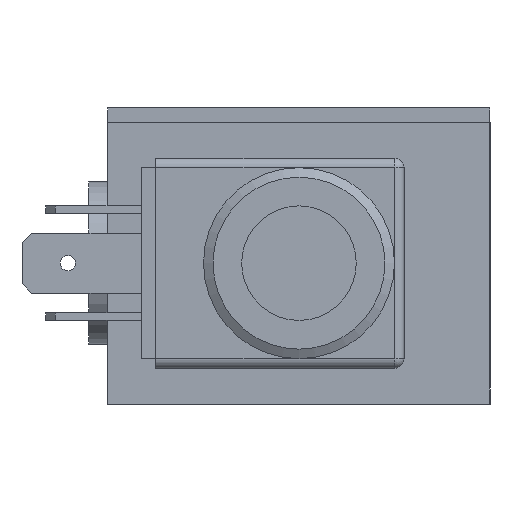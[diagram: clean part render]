
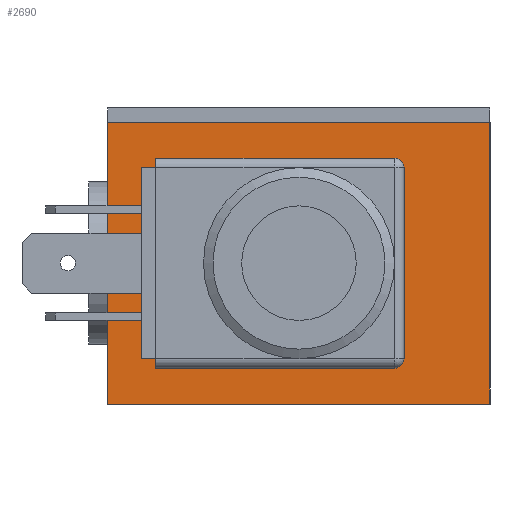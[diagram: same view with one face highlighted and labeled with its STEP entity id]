
A CAD part, left-side view. The second image highlights one B-rep face of the part: STEP entity #2690.
In plain terms, the highlighted planar face has unit normal (-1, 0, 0).
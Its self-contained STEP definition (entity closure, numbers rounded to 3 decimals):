
#1795=CARTESIAN_POINT('',(-55.0,11.,-8.75));
#1796=VERTEX_POINT('',#1795);
#1803=CARTESIAN_POINT('',(-55.0,11.0,-23.75));
#1804=VERTEX_POINT('',#1803);
#1805=CARTESIAN_POINT('',(-55.0,11.0,-23.75));
#1806=DIRECTION('',(0.0,0.0,1.0));
#1807=VECTOR('',#1806,15.);
#1808=LINE('',#1805,#1807);
#1809=EDGE_CURVE('',#1804,#1796,#1808,.T.);
#1837=CARTESIAN_POINT('',(-55.0,7.5,-5.25));
#1838=VERTEX_POINT('',#1837);
#1845=CARTESIAN_POINT('',(-55.0,7.5,-8.75));
#1846=DIRECTION('',(1.0,0.0,0.0));
#1847=DIRECTION('',(0.0,0.0,1.0));
#1848=AXIS2_PLACEMENT_3D('',#1845,#1846,#1847);
#1849=CIRCLE('',#1848,3.5);
#1850=EDGE_CURVE('',#1796,#1838,#1849,.T.);
#1869=CARTESIAN_POINT('',(-55.0,-7.5,-5.25));
#1870=VERTEX_POINT('',#1869);
#1877=CARTESIAN_POINT('',(-55.0,7.5,-5.25));
#1878=DIRECTION('',(0.0,-1.0,0.0));
#1879=VECTOR('',#1878,15.);
#1880=LINE('',#1877,#1879);
#1881=EDGE_CURVE('',#1838,#1870,#1880,.T.);
#1901=CARTESIAN_POINT('',(-55.0,-11.,-8.75));
#1902=VERTEX_POINT('',#1901);
#1909=CARTESIAN_POINT('',(-55.0,-7.5,-8.75));
#1910=DIRECTION('',(1.0,0.0,0.0));
#1911=DIRECTION('',(0.0,-1.0,0.0));
#1912=AXIS2_PLACEMENT_3D('',#1909,#1910,#1911);
#1913=CIRCLE('',#1912,3.5);
#1914=EDGE_CURVE('',#1870,#1902,#1913,.T.);
#1933=CARTESIAN_POINT('',(-55.0,-11.0,-23.75));
#1934=VERTEX_POINT('',#1933);
#1941=CARTESIAN_POINT('',(-55.0,-11.,-8.75));
#1942=DIRECTION('',(0.0,0.0,-1.0));
#1943=VECTOR('',#1942,15.);
#1944=LINE('',#1941,#1943);
#1945=EDGE_CURVE('',#1902,#1934,#1944,.T.);
#1965=CARTESIAN_POINT('',(-55.0,-7.5,-27.25));
#1966=VERTEX_POINT('',#1965);
#1973=CARTESIAN_POINT('',(-55.0,-7.5,-23.75));
#1974=DIRECTION('',(1.0,0.0,0.0));
#1975=DIRECTION('',(0.0,0.0,-1.0));
#1976=AXIS2_PLACEMENT_3D('',#1973,#1974,#1975);
#1977=CIRCLE('',#1976,3.5);
#1978=EDGE_CURVE('',#1934,#1966,#1977,.T.);
#1997=CARTESIAN_POINT('',(-55.0,7.5,-27.25));
#1998=VERTEX_POINT('',#1997);
#2005=CARTESIAN_POINT('',(-55.0,-7.5,-27.25));
#2006=DIRECTION('',(0.0,1.0,0.0));
#2007=VECTOR('',#2006,15.);
#2008=LINE('',#2005,#2007);
#2009=EDGE_CURVE('',#1966,#1998,#2008,.T.);
#2028=CARTESIAN_POINT('',(-55.0,7.5,-23.75));
#2029=DIRECTION('',(1.0,0.0,0.0));
#2030=DIRECTION('',(0.0,1.0,0.0));
#2031=AXIS2_PLACEMENT_3D('',#2028,#2029,#2030);
#2032=CIRCLE('',#2031,3.5);
#2033=EDGE_CURVE('',#1998,#1804,#2032,.T.);
#2550=CARTESIAN_POINT('',(-55.0,20.,-1.5));
#2551=VERTEX_POINT('',#2550);
#2552=CARTESIAN_POINT('',(-55.0,-20.,-1.5));
#2553=VERTEX_POINT('',#2552);
#2554=CARTESIAN_POINT('',(-55.0,20.,-1.5));
#2555=DIRECTION('',(0.0,-1.0,0.0));
#2556=VECTOR('',#2555,40.);
#2557=LINE('',#2554,#2556);
#2558=EDGE_CURVE('',#2551,#2553,#2557,.T.);
#2590=CARTESIAN_POINT('',(-55.0,-20.,-31.));
#2591=VERTEX_POINT('',#2590);
#2592=CARTESIAN_POINT('',(-55.0,-20.,-1.5));
#2593=DIRECTION('',(0.0,0.0,-1.0));
#2594=VECTOR('',#2593,29.5);
#2595=LINE('',#2592,#2594);
#2596=EDGE_CURVE('',#2553,#2591,#2595,.T.);
#2621=CARTESIAN_POINT('',(-55.0,20.,-31.));
#2622=VERTEX_POINT('',#2621);
#2623=CARTESIAN_POINT('',(-55.0,-20.,-31.));
#2624=DIRECTION('',(0.0,1.0,0.0));
#2625=VECTOR('',#2624,40.);
#2626=LINE('',#2623,#2625);
#2627=EDGE_CURVE('',#2591,#2622,#2626,.T.);
#2652=CARTESIAN_POINT('',(-55.0,20.,-31.));
#2653=DIRECTION('',(0.0,0.0,1.0));
#2654=VECTOR('',#2653,29.5);
#2655=LINE('',#2652,#2654);
#2656=EDGE_CURVE('',#2622,#2551,#2655,.T.);
#2669=CARTESIAN_POINT('',(-55.0,0.,-16.25));
#2670=DIRECTION('',(1.0,0.0,0.0));
#2671=DIRECTION('',(0.0,0.0,-1.0));
#2672=AXIS2_PLACEMENT_3D('',#2669,#2670,#2671);
#2673=PLANE('',#2672);
#2674=ORIENTED_EDGE('',*,*,#2558,.F.);
#2675=ORIENTED_EDGE('',*,*,#2656,.F.);
#2676=ORIENTED_EDGE('',*,*,#2627,.F.);
#2677=ORIENTED_EDGE('',*,*,#2596,.F.);
#2678=EDGE_LOOP('',(#2674,#2675,#2676,#2677));
#2679=FACE_OUTER_BOUND('',#2678,.T.);
#2680=ORIENTED_EDGE('',*,*,#1809,.T.);
#2681=ORIENTED_EDGE('',*,*,#1850,.T.);
#2682=ORIENTED_EDGE('',*,*,#1881,.T.);
#2683=ORIENTED_EDGE('',*,*,#1914,.T.);
#2684=ORIENTED_EDGE('',*,*,#1945,.T.);
#2685=ORIENTED_EDGE('',*,*,#1978,.T.);
#2686=ORIENTED_EDGE('',*,*,#2009,.T.);
#2687=ORIENTED_EDGE('',*,*,#2033,.T.);
#2688=EDGE_LOOP('',(#2680,#2681,#2682,#2683,#2684,#2685,#2686,#2687));
#2689=FACE_BOUND('',#2688,.T.);
#2690=ADVANCED_FACE('',(#2679,#2689),#2673,.F.);
